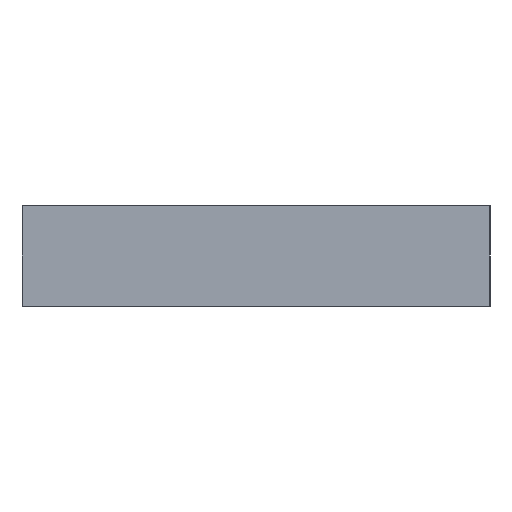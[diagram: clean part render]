
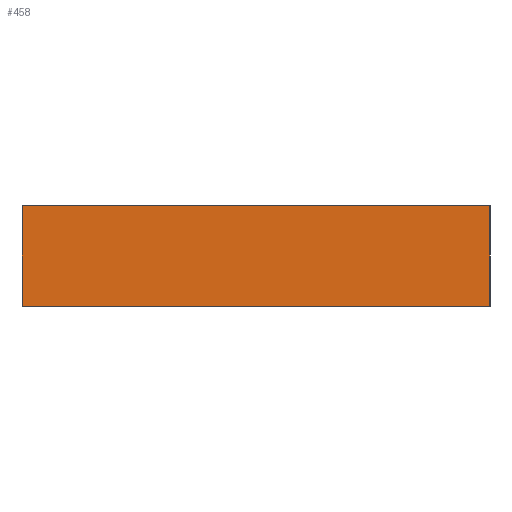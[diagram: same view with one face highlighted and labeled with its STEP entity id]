
A CAD part, front view. The second image highlights one B-rep face of the part: STEP entity #458.
In plain terms, the highlighted planar face has unit normal (0, -1, 0).
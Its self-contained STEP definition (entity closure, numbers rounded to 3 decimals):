
#25 = CARTESIAN_POINT ( 'NONE',  ( -7., -608.5, 0. ) ) ;
#56 = VERTEX_POINT ( 'NONE', #152 ) ;
#94 = DIRECTION ( 'NONE',  ( 0., 0., 1. ) ) ;
#95 = VECTOR ( 'NONE', #396, 1000. ) ;
#129 = VECTOR ( 'NONE', #196, 1000. ) ;
#137 = CARTESIAN_POINT ( 'NONE',  ( 0., -608.5, 3. ) ) ;
#152 = CARTESIAN_POINT ( 'NONE',  ( -7., -608.5, 3. ) ) ;
#154 = LINE ( 'NONE', #496, #129 ) ;
#159 = EDGE_CURVE ( 'NONE', #56, #387, #230, .T. ) ;
#163 = EDGE_LOOP ( 'NONE', ( #232, #243, #374, #170 ) ) ;
#170 = ORIENTED_EDGE ( 'NONE', *, *, #285, .T. ) ;
#193 = CARTESIAN_POINT ( 'NONE',  ( 7., -608.5, 0. ) ) ;
#196 = DIRECTION ( 'NONE',  ( 0., 0., -1. ) ) ;
#230 = LINE ( 'NONE', #137, #697 ) ;
#232 = ORIENTED_EDGE ( 'NONE', *, *, #528, .T. ) ;
#243 = ORIENTED_EDGE ( 'NONE', *, *, #371, .F. ) ;
#250 = FACE_OUTER_BOUND ( 'NONE', #163, .T. ) ;
#257 = LINE ( 'NONE', #676, #95 ) ;
#263 = VERTEX_POINT ( 'NONE', #193 ) ;
#285 = EDGE_CURVE ( 'NONE', #56, #363, #154, .T. ) ;
#339 = PLANE ( 'NONE',  #430 ) ;
#363 = VERTEX_POINT ( 'NONE', #25 ) ;
#371 = EDGE_CURVE ( 'NONE', #387, #263, #257, .T. ) ;
#374 = ORIENTED_EDGE ( 'NONE', *, *, #159, .F. ) ;
#387 = VERTEX_POINT ( 'NONE', #732 ) ;
#396 = DIRECTION ( 'NONE',  ( 0., 0., -1. ) ) ;
#410 = CARTESIAN_POINT ( 'NONE',  ( 0., -608.5, 3. ) ) ;
#430 = AXIS2_PLACEMENT_3D ( 'NONE', #410, #469, #94 ) ;
#458 = ADVANCED_FACE ( 'NONE', ( #250 ), #339, .F. ) ;
#469 = DIRECTION ( 'NONE',  ( 0., 1., 0. ) ) ;
#496 = CARTESIAN_POINT ( 'NONE',  ( -7., -608.5, 3. ) ) ;
#506 = DIRECTION ( 'NONE',  ( 1., 0., 0. ) ) ;
#528 = EDGE_CURVE ( 'NONE', #363, #263, #661, .T. ) ;
#550 = VECTOR ( 'NONE', #743, 1000. ) ;
#661 = LINE ( 'NONE', #692, #550 ) ;
#676 = CARTESIAN_POINT ( 'NONE',  ( 7., -608.5, 3. ) ) ;
#692 = CARTESIAN_POINT ( 'NONE',  ( 0., -608.5, 0. ) ) ;
#697 = VECTOR ( 'NONE', #506, 1000. ) ;
#732 = CARTESIAN_POINT ( 'NONE',  ( 7., -608.5, 3. ) ) ;
#743 = DIRECTION ( 'NONE',  ( 1., 0., 0. ) ) ;
